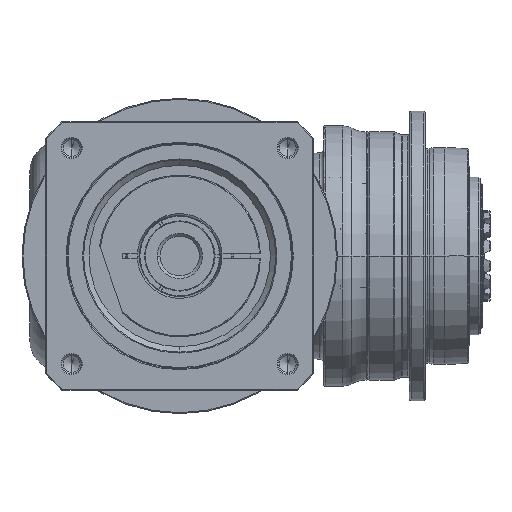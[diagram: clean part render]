
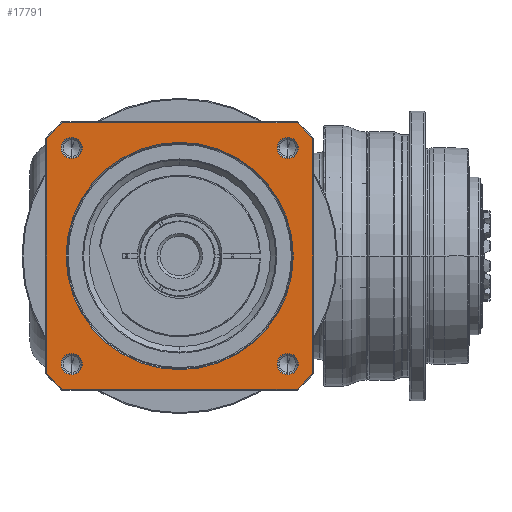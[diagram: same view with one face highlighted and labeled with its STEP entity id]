
A CAD part, front view. The second image highlights one B-rep face of the part: STEP entity #17791.
In plain terms, the highlighted planar face has unit normal (0, -1, 0) as drawn and (0, 0, 1) by its records, which use the part's own axes.
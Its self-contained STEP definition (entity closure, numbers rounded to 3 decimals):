
#16522=DIRECTION('',(1.,0.,0.));
#16523=VECTOR('',#16522,119.059);
#16524=CARTESIAN_POINT('',(-59.529,-67.5,41.));
#16525=LINE('',#16524,#16523);
#16535=CARTESIAN_POINT('',(0.,0.,
41.));
#16536=DIRECTION('',(0.,0.,-1.));
#16537=DIRECTION('',(0.,-1.,0.));
#16538=AXIS2_PLACEMENT_3D('',#16535,#16536,#16537);
#16540=CARTESIAN_POINT('',(0.,0.,
41.));
#16541=DIRECTION('',(0.,0.,-1.));
#16542=DIRECTION('',(0.,1.,0.));
#16543=AXIS2_PLACEMENT_3D('',#16540,#16541,#16542);
#16545=CARTESIAN_POINT('',(0.,0.,41.));
#16546=DIRECTION('',(0.,0.,1.));
#16547=DIRECTION('',(-0.75,-0.661,0.));
#16548=AXIS2_PLACEMENT_3D('',#16545,#16546,#16547);
#16560=DIRECTION('',(0.,-1.,0.));
#16561=VECTOR('',#16560,119.059);
#16562=CARTESIAN_POINT('',(-67.5,59.529,41.));
#16563=LINE('',#16562,#16561);
#16573=CARTESIAN_POINT('',(0.,0.,41.));
#16574=DIRECTION('',(0.,0.,1.));
#16575=DIRECTION('',(-0.661,0.75,0.));
#16576=AXIS2_PLACEMENT_3D('',#16573,#16574,#16575);
#16601=DIRECTION('',(-1.,0.,0.));
#16602=VECTOR('',#16601,119.059);
#16603=CARTESIAN_POINT('',(59.529,67.5,41.));
#16604=LINE('',#16603,#16602);
#16609=CARTESIAN_POINT('',(0.,0.,41.));
#16610=DIRECTION('',(0.,0.,1.));
#16611=DIRECTION('',(0.75,0.661,0.));
#16612=AXIS2_PLACEMENT_3D('',#16609,#16610,#16611);
#16624=DIRECTION('',(0.,1.,0.));
#16625=VECTOR('',#16624,119.059);
#16626=CARTESIAN_POINT('',(67.5,-59.529,41.));
#16627=LINE('',#16626,#16625);
#16729=CARTESIAN_POINT('',(0.,0.,41.));
#16730=DIRECTION('',(0.,0.,1.));
#16731=DIRECTION('',(0.661,-0.75,0.));
#16732=AXIS2_PLACEMENT_3D('',#16729,#16730,#16731);
#17008=CARTESIAN_POINT('',(-54.801,54.801,41.));
#17009=DIRECTION('',(0.,0.,1.));
#17010=DIRECTION('',(-1.,0.,0.));
#17011=AXIS2_PLACEMENT_3D('',#17008,#17009,#17010);
#17026=CARTESIAN_POINT('',(-54.801,54.801,41.));
#17027=DIRECTION('',(0.,0.,1.));
#17028=DIRECTION('',(1.,0.,0.));
#17029=AXIS2_PLACEMENT_3D('',#17026,#17027,#17028);
#17062=CARTESIAN_POINT('',(54.801,54.801,41.));
#17063=DIRECTION('',(0.,0.,1.));
#17064=DIRECTION('',(-1.,0.,0.));
#17065=AXIS2_PLACEMENT_3D('',#17062,#17063,#17064);
#17080=CARTESIAN_POINT('',(54.801,54.801,41.));
#17081=DIRECTION('',(0.,0.,1.));
#17082=DIRECTION('',(1.,0.,0.));
#17083=AXIS2_PLACEMENT_3D('',#17080,#17081,#17082);
#17116=CARTESIAN_POINT('',(54.801,-54.801,41.));
#17117=DIRECTION('',(0.,0.,1.));
#17118=DIRECTION('',(-1.,0.,0.));
#17119=AXIS2_PLACEMENT_3D('',#17116,#17117,#17118);
#17134=CARTESIAN_POINT('',(54.801,-54.801,41.));
#17135=DIRECTION('',(0.,0.,1.));
#17136=DIRECTION('',(1.,0.,0.));
#17137=AXIS2_PLACEMENT_3D('',#17134,#17135,#17136);
#17170=CARTESIAN_POINT('',(-54.801,-54.801,41.));
#17171=DIRECTION('',(0.,0.,1.));
#17172=DIRECTION('',(-1.,0.,0.));
#17173=AXIS2_PLACEMENT_3D('',#17170,#17171,#17172);
#17188=CARTESIAN_POINT('',(-54.801,-54.801,41.));
#17189=DIRECTION('',(0.,0.,1.));
#17190=DIRECTION('',(1.,0.,0.));
#17191=AXIS2_PLACEMENT_3D('',#17188,#17189,#17190);
#17232=CARTESIAN_POINT('',(67.5,-59.529,41.));
#17233=CARTESIAN_POINT('',(67.5,59.529,41.));
#17234=VERTEX_POINT('',#17232);
#17235=VERTEX_POINT('',#17233);
#17240=CARTESIAN_POINT('',(59.529,-67.5,41.));
#17241=VERTEX_POINT('',#17240);
#17244=CARTESIAN_POINT('',(-59.529,-67.5,41.));
#17245=VERTEX_POINT('',#17244);
#17248=CARTESIAN_POINT('',(-67.5,-59.529,41.));
#17249=VERTEX_POINT('',#17248);
#17252=CARTESIAN_POINT('',(-67.5,59.529,41.));
#17253=VERTEX_POINT('',#17252);
#17256=CARTESIAN_POINT('',(-59.529,67.5,41.));
#17257=VERTEX_POINT('',#17256);
#17260=CARTESIAN_POINT('',(59.529,67.5,41.));
#17261=VERTEX_POINT('',#17260);
#17310=CARTESIAN_POINT('',(-60.151,54.801,41.));
#17311=CARTESIAN_POINT('',(-49.451,54.801,41.));
#17312=VERTEX_POINT('',#17310);
#17313=VERTEX_POINT('',#17311);
#17344=CARTESIAN_POINT('',(60.151,54.801,41.));
#17345=CARTESIAN_POINT('',(49.451,54.801,41.));
#17346=VERTEX_POINT('',#17344);
#17347=VERTEX_POINT('',#17345);
#17352=CARTESIAN_POINT('',(60.151,-54.801,41.));
#17353=CARTESIAN_POINT('',(49.451,-54.801,41.));
#17354=VERTEX_POINT('',#17352);
#17355=VERTEX_POINT('',#17353);
#17360=CARTESIAN_POINT('',(-49.451,-54.801,41.));
#17361=CARTESIAN_POINT('',(-60.151,-54.801,41.));
#17362=VERTEX_POINT('',#17360);
#17363=VERTEX_POINT('',#17361);
#17368=CARTESIAN_POINT('',(0.,-57.65,41.));
#17369=CARTESIAN_POINT('',(0.,57.65,
41.));
#17370=VERTEX_POINT('',#17368);
#17371=VERTEX_POINT('',#17369);
#17739=CARTESIAN_POINT('',(0.,0.,41.));
#17740=DIRECTION('',(0.,0.,1.));
#17741=DIRECTION('',(1.,0.,0.));
#17742=AXIS2_PLACEMENT_3D('',#17739,#17740,#17741);
#17743=PLANE('',#17742);
#17745=ORIENTED_EDGE('',*,*,#17744,.F.);
#17747=ORIENTED_EDGE('',*,*,#17746,.F.);
#17749=ORIENTED_EDGE('',*,*,#17748,.F.);
#17751=ORIENTED_EDGE('',*,*,#17750,.F.);
#17753=ORIENTED_EDGE('',*,*,#17752,.F.);
#17755=ORIENTED_EDGE('',*,*,#17754,.F.);
#17757=ORIENTED_EDGE('',*,*,#17756,.F.);
#17758=ORIENTED_EDGE('',*,*,#17729,.F.);
#17759=EDGE_LOOP('',(#17745,#17747,#17749,#17751,#17753,#17755,#17757,#17758));
#17760=FACE_OUTER_BOUND('',#17759,.F.);
#17762=ORIENTED_EDGE('',*,*,#17761,.F.);
#17764=ORIENTED_EDGE('',*,*,#17763,.F.);
#17765=EDGE_LOOP('',(#17762,#17764));
#17766=FACE_BOUND('',#17765,.F.);
#17768=ORIENTED_EDGE('',*,*,#17767,.T.);
#17770=ORIENTED_EDGE('',*,*,#17769,.T.);
#17771=EDGE_LOOP('',(#17768,#17770));
#17772=FACE_BOUND('',#17771,.F.);
#17774=ORIENTED_EDGE('',*,*,#17773,.T.);
#17776=ORIENTED_EDGE('',*,*,#17775,.T.);
#17777=EDGE_LOOP('',(#17774,#17776));
#17778=FACE_BOUND('',#17777,.F.);
#17780=ORIENTED_EDGE('',*,*,#17779,.T.);
#17782=ORIENTED_EDGE('',*,*,#17781,.T.);
#17783=EDGE_LOOP('',(#17780,#17782));
#17784=FACE_BOUND('',#17783,.F.);
#17786=ORIENTED_EDGE('',*,*,#17785,.T.);
#17788=ORIENTED_EDGE('',*,*,#17787,.T.);
#17789=EDGE_LOOP('',(#17786,#17788));
#17790=FACE_BOUND('',#17789,.F.);
#17791=ADVANCED_FACE('',(#17760,#17766,#17772,#17778,#17784,#17790),#17743,.T.);
#16539=CIRCLE('',#16538,57.65);
#16544=CIRCLE('',#16543,57.65);
#16549=CIRCLE('',#16548,90.);
#16577=CIRCLE('',#16576,90.);
#16613=CIRCLE('',#16612,90.);
#16733=CIRCLE('',#16732,90.);
#17012=CIRCLE('',#17011,5.35);
#17030=CIRCLE('',#17029,5.35);
#17066=CIRCLE('',#17065,5.35);
#17084=CIRCLE('',#17083,5.35);
#17120=CIRCLE('',#17119,5.35);
#17138=CIRCLE('',#17137,5.35);
#17174=CIRCLE('',#17173,5.35);
#17192=CIRCLE('',#17191,5.35);
#17729=EDGE_CURVE('',#17245,#17241,#16525,.T.);
#17744=EDGE_CURVE('',#17249,#17245,#16549,.T.);
#17746=EDGE_CURVE('',#17253,#17249,#16563,.T.);
#17748=EDGE_CURVE('',#17257,#17253,#16577,.T.);
#17750=EDGE_CURVE('',#17261,#17257,#16604,.T.);
#17752=EDGE_CURVE('',#17235,#17261,#16613,.T.);
#17754=EDGE_CURVE('',#17234,#17235,#16627,.T.);
#17756=EDGE_CURVE('',#17241,#17234,#16733,.T.);
#17761=EDGE_CURVE('',#17370,#17371,#16539,.T.);
#17763=EDGE_CURVE('',#17371,#17370,#16544,.T.);
#17767=EDGE_CURVE('',#17312,#17313,#17012,.T.);
#17769=EDGE_CURVE('',#17313,#17312,#17030,.T.);
#17773=EDGE_CURVE('',#17347,#17346,#17066,.T.);
#17775=EDGE_CURVE('',#17346,#17347,#17084,.T.);
#17779=EDGE_CURVE('',#17355,#17354,#17120,.T.);
#17781=EDGE_CURVE('',#17354,#17355,#17138,.T.);
#17785=EDGE_CURVE('',#17363,#17362,#17174,.T.);
#17787=EDGE_CURVE('',#17362,#17363,#17192,.T.);
